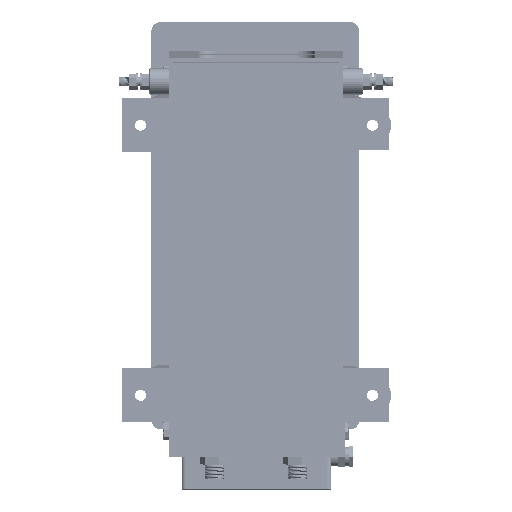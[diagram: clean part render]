
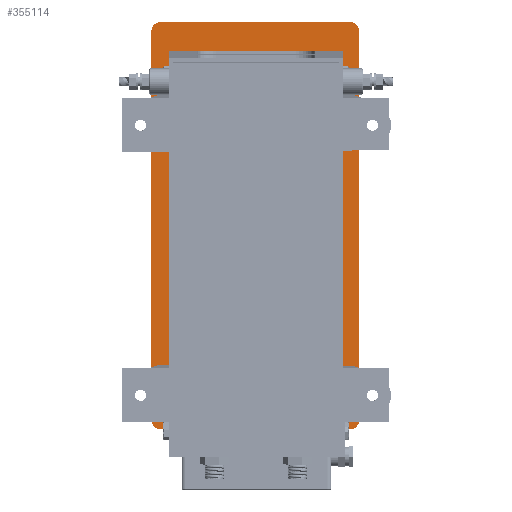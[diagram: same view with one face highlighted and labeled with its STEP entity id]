
A CAD part, left-side view. The second image highlights one B-rep face of the part: STEP entity #355114.
In plain terms, the highlighted planar face has unit normal (-1, 0, -0.011).
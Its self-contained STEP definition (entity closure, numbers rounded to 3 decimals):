
#266 = VECTOR ( 'NONE', #185990, 1000. ) ;
#2828 = ORIENTED_EDGE ( 'NONE', *, *, #448990, .T. ) ;
#3570 = CIRCLE ( 'NONE', #41547, 10. ) ;
#5496 = DIRECTION ( 'NONE',  ( 0.011, 0., -1. ) ) ;
#6019 = AXIS2_PLACEMENT_3D ( 'NONE', #294463, #439238, #80778 ) ;
#9198 = CARTESIAN_POINT ( 'NONE',  ( 264.791, 128.678, -37.246 ) ) ;
#11019 = VECTOR ( 'NONE', #70198, 1000. ) ;
#17721 = EDGE_CURVE ( 'NONE', #292257, #127687, #453261, .T. ) ;
#18877 = ORIENTED_EDGE ( 'NONE', *, *, #269290, .F. ) ;
#21362 = AXIS2_PLACEMENT_3D ( 'NONE', #207676, #103138, #357197 ) ;
#21825 = VERTEX_POINT ( 'NONE', #379580 ) ;
#22438 = VECTOR ( 'NONE', #214855, 1000. ) ;
#29151 = CIRCLE ( 'NONE', #21362, 10. ) ;
#38982 = CARTESIAN_POINT ( 'NONE',  ( 264.831, 128.678, -40.95 ) ) ;
#40778 = LINE ( 'NONE', #81054, #374606 ) ;
#41382 = CIRCLE ( 'NONE', #101896, 10. ) ;
#41547 = AXIS2_PLACEMENT_3D ( 'NONE', #82307, #371928, #445469 ) ;
#44983 = EDGE_LOOP ( 'NONE', ( #359232, #282622, #59197, #210747, #2828, #203914, #18877, #380836, #428085, #149950, #148228, #130954, #343705, #339921, #218271 ) ) ;
#46202 = DIRECTION ( 'NONE',  ( 0., -1., 0. ) ) ;
#55686 = CIRCLE ( 'NONE', #320988, 10. ) ;
#59197 = ORIENTED_EDGE ( 'NONE', *, *, #17721, .T. ) ;
#59647 = DIRECTION ( 'NONE',  ( -1., 0., -0.011 ) ) ;
#62539 = DIRECTION ( 'NONE',  ( -1., 0., -0.011 ) ) ;
#67880 = EDGE_CURVE ( 'NONE', #155945, #101654, #41382, .T. ) ;
#70198 = DIRECTION ( 'NONE',  ( -0.011, 0., 1. ) ) ;
#71934 = CARTESIAN_POINT ( 'NONE',  ( 264.831, 127.718, -40.95 ) ) ;
#80269 = CARTESIAN_POINT ( 'NONE',  ( 260.558, -76.282, 358.027 ) ) ;
#80778 = DIRECTION ( 'NONE',  ( 0.011, 0., -1. ) ) ;
#81054 = CARTESIAN_POINT ( 'NONE',  ( 260.483, -93.762, 365.027 ) ) ;
#82307 = CARTESIAN_POINT ( 'NONE',  ( 260.336, 118.678, 378.676 ) ) ;
#85671 = EDGE_CURVE ( 'NONE', #409718, #407126, #138883, .T. ) ;
#86931 = DIRECTION ( 'NONE',  ( 0.011, 0., -1. ) ) ;
#101111 = VERTEX_POINT ( 'NONE', #366935 ) ;
#101654 = VERTEX_POINT ( 'NONE', #103969 ) ;
#101896 = AXIS2_PLACEMENT_3D ( 'NONE', #414033, #62539, #207325 ) ;
#102265 = CARTESIAN_POINT ( 'NONE',  ( 260.229, -83.762, 388.675 ) ) ;
#103138 = DIRECTION ( 'NONE',  ( -1., 0., -0.011 ) ) ;
#103969 = CARTESIAN_POINT ( 'NONE',  ( 264.831, 127.967, -40.95 ) ) ;
#105219 = CARTESIAN_POINT ( 'NONE',  ( 260.229, 118.678, 388.675 ) ) ;
#117271 = CARTESIAN_POINT ( 'NONE',  ( 264.898, 109.718, -47.246 ) ) ;
#120167 = EDGE_CURVE ( 'NONE', #127687, #21825, #29151, .T. ) ;
#122135 = VECTOR ( 'NONE', #124606, 1000. ) ;
#124606 = DIRECTION ( 'NONE',  ( 0.011, 0., -1. ) ) ;
#126065 = CARTESIAN_POINT ( 'NONE',  ( 264.791, -93.762, -37.246 ) ) ;
#126796 = CARTESIAN_POINT ( 'NONE',  ( 264.898, -83.762, -47.246 ) ) ;
#127041 = VERTEX_POINT ( 'NONE', #141515 ) ;
#127687 = VERTEX_POINT ( 'NONE', #409041 ) ;
#128523 = EDGE_CURVE ( 'NONE', #232289, #101111, #449907, .T. ) ;
#130954 = ORIENTED_EDGE ( 'NONE', *, *, #280318, .T. ) ;
#133580 = EDGE_CURVE ( 'NONE', #359136, #127041, #3570, .T. ) ;
#138883 = LINE ( 'NONE', #243479, #22438 ) ;
#141515 = CARTESIAN_POINT ( 'NONE',  ( 260.336, 128.678, 378.676 ) ) ;
#146047 = CARTESIAN_POINT ( 'NONE',  ( 260.611, -76.282, 353.027 ) ) ;
#148228 = ORIENTED_EDGE ( 'NONE', *, *, #312790, .T. ) ;
#149950 = ORIENTED_EDGE ( 'NONE', *, *, #367320, .F. ) ;
#150555 = EDGE_CURVE ( 'NONE', #101654, #292257, #252608, .T. ) ;
#155945 = VERTEX_POINT ( 'NONE', #9198 ) ;
#171117 = PLANE ( 'NONE',  #280071 ) ;
#173517 = VERTEX_POINT ( 'NONE', #80269 ) ;
#183494 = DIRECTION ( 'NONE',  ( 0., 1., 0. ) ) ;
#185858 = CARTESIAN_POINT ( 'NONE',  ( 264.791, -83.762, -37.246 ) ) ;
#185990 = DIRECTION ( 'NONE',  ( 0., -1., 0. ) ) ;
#190948 = VERTEX_POINT ( 'NONE', #126065 ) ;
#203914 = ORIENTED_EDGE ( 'NONE', *, *, #128523, .F. ) ;
#207325 = DIRECTION ( 'NONE',  ( -0.011, 0., 1. ) ) ;
#207676 = CARTESIAN_POINT ( 'NONE',  ( 264.791, 118.678, -37.246 ) ) ;
#210238 = CARTESIAN_POINT ( 'NONE',  ( 264.898, -76.282, -47.246 ) ) ;
#210747 = ORIENTED_EDGE ( 'NONE', *, *, #120167, .T. ) ;
#211437 = CARTESIAN_POINT ( 'NONE',  ( 260.558, -76.282, 358.027 ) ) ;
#214855 = DIRECTION ( 'NONE',  ( 0., 1., 0. ) ) ;
#217034 = LINE ( 'NONE', #38982, #373920 ) ;
#217913 = DIRECTION ( 'NONE',  ( -0.011, 0., 1. ) ) ;
#218271 = ORIENTED_EDGE ( 'NONE', *, *, #220868, .T. ) ;
#220868 = EDGE_CURVE ( 'NONE', #127041, #155945, #217034, .T. ) ;
#225854 = DIRECTION ( 'NONE',  ( -0.011, 0., 1. ) ) ;
#232289 = VERTEX_POINT ( 'NONE', #275077 ) ;
#233087 = FACE_OUTER_BOUND ( 'NONE', #44983, .T. ) ;
#243479 = CARTESIAN_POINT ( 'NONE',  ( 264.898, -83.762, -47.246 ) ) ;
#252608 = LINE ( 'NONE', #328465, #266 ) ;
#259969 = LINE ( 'NONE', #146047, #11019 ) ;
#269290 = EDGE_CURVE ( 'NONE', #173517, #232289, #427411, .T. ) ;
#273048 = VECTOR ( 'NONE', #46202, 1000. ) ;
#275077 = CARTESIAN_POINT ( 'NONE',  ( 260.558, 109.718, 358.027 ) ) ;
#280071 = AXIS2_PLACEMENT_3D ( 'NONE', #389489, #59647, #217913 ) ;
#280318 = EDGE_CURVE ( 'NONE', #355265, #356333, #455177, .T. ) ;
#282622 = ORIENTED_EDGE ( 'NONE', *, *, #150555, .T. ) ;
#292257 = VERTEX_POINT ( 'NONE', #71934 ) ;
#294463 = CARTESIAN_POINT ( 'NONE',  ( 264.831, 107.718, -40.95 ) ) ;
#298388 = CARTESIAN_POINT ( 'NONE',  ( 260.229, 118.678, 388.675 ) ) ;
#303725 = AXIS2_PLACEMENT_3D ( 'NONE', #381240, #447800, #86931 ) ;
#312790 = EDGE_CURVE ( 'NONE', #190948, #355265, #40778, .T. ) ;
#319128 = EDGE_CURVE ( 'NONE', #356333, #359136, #430448, .T. ) ;
#320988 = AXIS2_PLACEMENT_3D ( 'NONE', #185858, #330673, #5496 ) ;
#328465 = CARTESIAN_POINT ( 'NONE',  ( 264.831, 127.718, -40.95 ) ) ;
#330673 = DIRECTION ( 'NONE',  ( 1., 0., 0.011 ) ) ;
#339921 = ORIENTED_EDGE ( 'NONE', *, *, #133580, .T. ) ;
#343081 = CARTESIAN_POINT ( 'NONE',  ( 260.611, 109.718, 353.027 ) ) ;
#343705 = ORIENTED_EDGE ( 'NONE', *, *, #319128, .T. ) ;
#346183 = VECTOR ( 'NONE', #183494, 1000. ) ;
#355114 = ADVANCED_FACE ( 'NONE', ( #233087 ), #171117, .T. ) ;
#355265 = VERTEX_POINT ( 'NONE', #460728 ) ;
#356268 = DIRECTION ( 'NONE',  ( 0., 1., 0. ) ) ;
#356333 = VERTEX_POINT ( 'NONE', #102265 ) ;
#357197 = DIRECTION ( 'NONE',  ( -0.011, 0., 1. ) ) ;
#359136 = VERTEX_POINT ( 'NONE', #298388 ) ;
#359232 = ORIENTED_EDGE ( 'NONE', *, *, #67880, .T. ) ;
#364194 = DIRECTION ( 'NONE',  ( 0.011, 0., -1. ) ) ;
#365955 = EDGE_CURVE ( 'NONE', #407126, #173517, #259969, .T. ) ;
#366935 = CARTESIAN_POINT ( 'NONE',  ( 264.898, 109.718, -47.246 ) ) ;
#367320 = EDGE_CURVE ( 'NONE', #190948, #409718, #55686, .T. ) ;
#371368 = LINE ( 'NONE', #117271, #273048 ) ;
#371928 = DIRECTION ( 'NONE',  ( -1., 0., -0.011 ) ) ;
#373920 = VECTOR ( 'NONE', #364194, 1000. ) ;
#374606 = VECTOR ( 'NONE', #225854, 1000. ) ;
#379580 = CARTESIAN_POINT ( 'NONE',  ( 264.898, 118.678, -47.246 ) ) ;
#380836 = ORIENTED_EDGE ( 'NONE', *, *, #365955, .F. ) ;
#381240 = CARTESIAN_POINT ( 'NONE',  ( 260.336, -83.762, 378.676 ) ) ;
#389489 = CARTESIAN_POINT ( 'NONE',  ( 260.816, -213.679, 333.859 ) ) ;
#407126 = VERTEX_POINT ( 'NONE', #210238 ) ;
#409041 = CARTESIAN_POINT ( 'NONE',  ( 264.837, 127.709, -41.54 ) ) ;
#409718 = VERTEX_POINT ( 'NONE', #126796 ) ;
#414033 = CARTESIAN_POINT ( 'NONE',  ( 264.791, 118.678, -37.246 ) ) ;
#427411 = LINE ( 'NONE', #211437, #438668 ) ;
#428085 = ORIENTED_EDGE ( 'NONE', *, *, #85671, .F. ) ;
#430448 = LINE ( 'NONE', #105219, #346183 ) ;
#438668 = VECTOR ( 'NONE', #356268, 1000. ) ;
#439238 = DIRECTION ( 'NONE',  ( -1., 0., -0.011 ) ) ;
#445469 = DIRECTION ( 'NONE',  ( -0.011, 0., 1. ) ) ;
#447800 = DIRECTION ( 'NONE',  ( -1., 0., -0.011 ) ) ;
#448990 = EDGE_CURVE ( 'NONE', #21825, #101111, #371368, .T. ) ;
#449907 = LINE ( 'NONE', #343081, #122135 ) ;
#453261 = CIRCLE ( 'NONE', #6019, 20. ) ;
#455177 = CIRCLE ( 'NONE', #303725, 10. ) ;
#460728 = CARTESIAN_POINT ( 'NONE',  ( 260.336, -93.762, 378.676 ) ) ;
